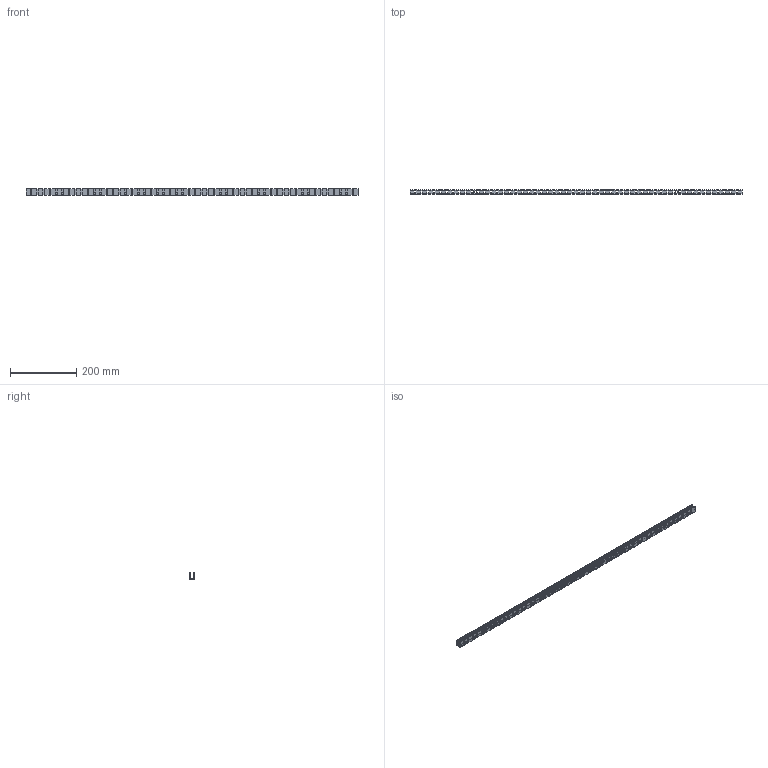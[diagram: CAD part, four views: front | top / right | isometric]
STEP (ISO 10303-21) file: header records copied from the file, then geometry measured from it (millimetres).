
FILE_DESCRIPTION(/* description */ (''),/* implementation_level */ '2;1');
FILE_NAME(/* name */ 'NF_0816_CURVED_PROFILE_SIDE_BEND_L1000_R01.step',/* time_stamp */ '2026-07-24T14:27:06+02:00',/* author */ (''),/* organization */ (''),/* preprocessor_version */ 'ST-DEVELOPER v20.1',/* originating_system */ 'Autodesk Translation Framework v15.8.0.0',/* authorisation */ '');
FILE_SCHEMA (('AUTOMOTIVE_DESIGN { 1 0 10303 214 3 1 1 }'));
Products named in the file (1): 2026-07-16-12-27-09-309
Bounding box: 1000 x 14.19 x 20.4 mm (x, y, z)
Volume: 94644.7 mm3; surface area: 185444.1 mm2
Topology: 3 solids, 3 shells, 3387 faces, 10143 edges, 6762 vertices
Faces by surface type: plane 2364, cylinder 960, bspline 63
Entity records: 114745 total; most frequent: CARTESIAN_POINT 21828, ORIENTED_EDGE 20286, DIRECTION 18631, EDGE_CURVE 10143, LINE 8097, VECTOR 8097, VERTEX_POINT 6762, AXIS2_PLACEMENT_3D 5267
